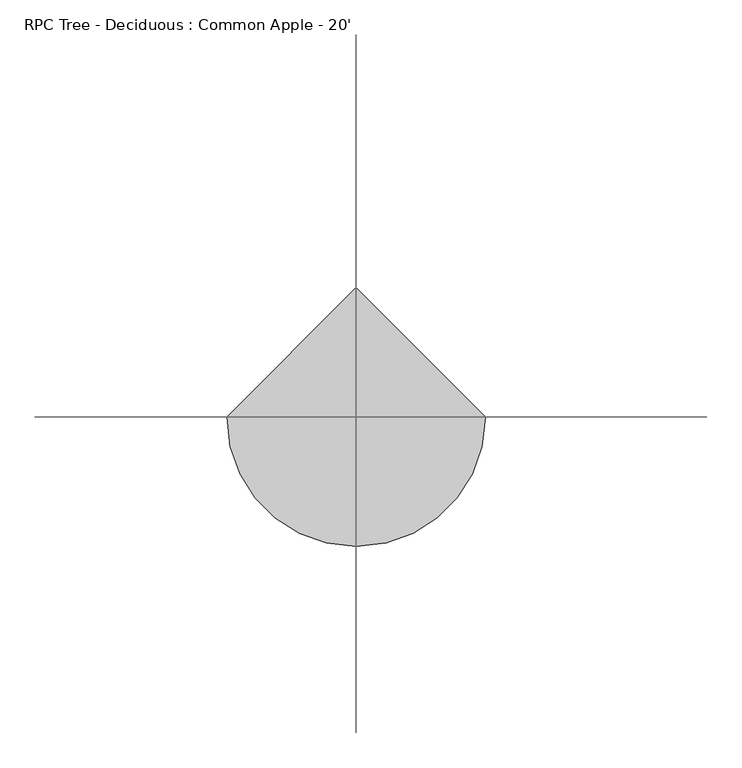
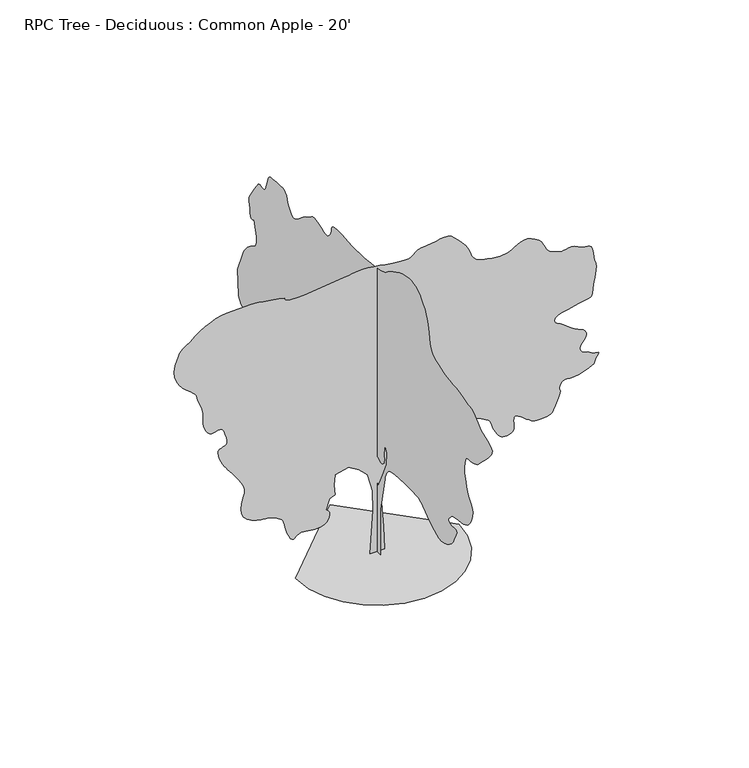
"""IFC4 building model written with IfcOpenShell, lengths in millimetres: geographic element geometry, RPC Tree - Deciduous : Common Apple - 20'."""

import ifcopenshell
import ifcopenshell.guid

model = None  # the IFC model being written
_history = None  # IfcOwnerHistory: only IFC2X3 demands one
_inside = {}  # id of a spatial element -> (the spatial element, [elements in it])
_under = {}  # id of a project, library or spatial element -> (it, [spatial elements below it])
_declared = {}  # id of a project -> (the project, [libraries it declares])
_typed = {}  # id of a type object -> (the type object, [elements of that type])
_made_of = {}  # id of a material, layer set ... -> (it, [elements and type objects made of it])


def new_model(schema):
    """Start an empty IFC model of exactly this schema.

    Asked for "IFC4X3", IfcOpenShell would pick the latest addendum, in which some entities
    have other attributes; the version numbers below select the first issue.
    IFC2X3 requires an IfcOwnerHistory on every rooted entity: one is made here for all.
    """
    global model, _history
    if schema == "IFC4X3":
        model = ifcopenshell.file(schema_version=(4, 3, 0, 0))
    else:
        model = ifcopenshell.file(schema=schema)
    _inside.clear()
    _under.clear()
    _declared.clear()
    _typed.clear()
    _made_of.clear()
    _history = None
    if model.schema == "IFC2X3":
        org = make("IfcOrganization", Name="unknown")
        user = make(
            "IfcPersonAndOrganization",
            ThePerson=make("IfcPerson", FamilyName="unknown"),
            TheOrganization=org,
        )
        app = make(
            "IfcApplication",
            ApplicationDeveloper=org,
            Version="unknown",
            ApplicationFullName="unknown",
            ApplicationIdentifier="unknown",
        )
        _history = make(
            "IfcOwnerHistory",
            OwningUser=user,
            OwningApplication=app,
            ChangeAction="ADDED",
            CreationDate=0,
        )
    return model


def make(cls, **values):
    """One entity of the class cls with the attributes given. An attribute that is None is left unset."""
    return model.create_entity(
        cls, **{name: value for name, value in values.items() if value is not None}
    )


def rooted(cls, **values):
    """An entity with a GlobalId (a new one), such as an element, a storey or a relation."""
    return make(cls, GlobalId=ifcopenshell.guid.new(), OwnerHistory=_history, **values)


def si_unit(unit_type, name, prefix=None):
    """IfcSIUnit, for example si_unit("LENGTHUNIT", "METRE", prefix="MILLI")."""
    return make("IfcSIUnit", UnitType=unit_type, Prefix=prefix, Name=name)


def assignment(units):
    """IfcUnitAssignment: the units of a project."""
    return None if units is None else make("IfcUnitAssignment", Units=units)


def point(xyz):
    """IfcCartesianPoint."""
    return None if xyz is None else make("IfcCartesianPoint", Coordinates=xyz)


def direction(xyz):
    """IfcDirection."""
    return None if xyz is None else make("IfcDirection", DirectionRatios=xyz)


def frame(location, z_axis=None, x_axis=None):
    """IfcAxis2Placement3D, a coordinate frame: its origin and axes. An axis left out is left unset."""
    return make(
        "IfcAxis2Placement3D",
        Location=point(location),
        Axis=direction(z_axis),
        RefDirection=direction(x_axis),
    )


def origin():
    """The frame at (0, 0, 0) with its axes left unset."""
    return frame((0.0, 0.0, 0.0))


def place(relative_to, where):
    """IfcLocalPlacement: puts the frame where relative to a parent placement (None: the world)."""
    return make(
        "IfcLocalPlacement", PlacementRelTo=relative_to, RelativePlacement=where
    )


def context(
    kind, dimensions, precision=None, world=None, true_north=None, identifier=None
):
    """IfcGeometricRepresentationContext, for example the 3D "Model" context."""
    return make(
        "IfcGeometricRepresentationContext",
        ContextIdentifier=identifier,
        ContextType=kind,
        CoordinateSpaceDimension=dimensions,
        Precision=precision,
        WorldCoordinateSystem=world,
        TrueNorth=true_north,
    )


def project(units=None, contexts=None):
    """IfcProject with its units and contexts."""
    return rooted(
        "IfcProject",
        Name="project",
        RepresentationContexts=contexts,
        UnitsInContext=assignment(units),
    )


def spatial(cls, under=None, at=None, **own):
    """A site, building, storey or space (cls), placed at a placement, below another one or the project."""
    s = rooted(cls, ObjectPlacement=at, **own)
    if under is not None:
        _under.setdefault(under.id(), (under, []))[1].append(s)
    return s


def point_list(points):
    """IfcCartesianPointList2D or 3D."""
    cls = (
        "IfcCartesianPointList2D" if len(points[0]) == 2 else "IfcCartesianPointList3D"
    )
    return make(cls, CoordList=points)


def triangles(points, corners, closed=None, point_numbers=None):
    """IfcTriangulatedFaceSet: each triangle names its three corners, points numbered from 1."""
    return make(
        "IfcTriangulatedFaceSet",
        Coordinates=point_list(points),
        Closed=closed,
        CoordIndex=corners,
        PnIndex=point_numbers,
    )


def shape(context_of_items, identifier, shape_type, items):
    """IfcShapeRepresentation: the items that make up one representation, for example the "Body"."""
    return make(
        "IfcShapeRepresentation",
        ContextOfItems=context_of_items,
        RepresentationIdentifier=identifier,
        RepresentationType=shape_type,
        Items=items,
    )


def source(mapping_origin, context_of_items, identifier, shape_type, items):
    """IfcRepresentationMap: a shape defined once, which mapped items show again and again."""
    return make(
        "IfcRepresentationMap",
        MappingOrigin=mapping_origin,
        MappedRepresentation=shape(context_of_items, identifier, shape_type, items),
    )


def transform(
    local_origin,
    x_axis=None,
    y_axis=None,
    z_axis=None,
    scale=None,
    scale2=None,
    scale3=None,
    uniform=True,
):
    """IfcCartesianTransformationOperator3D, or its non-uniform kind. x_axis, y_axis, z_axis: its Axis1, 2, 3."""
    if uniform:
        return make(
            "IfcCartesianTransformationOperator3D",
            Axis1=direction(x_axis),
            Axis2=direction(y_axis),
            LocalOrigin=point(local_origin),
            Scale=scale,
            Axis3=direction(z_axis),
        )
    return make(
        "IfcCartesianTransformationOperator3DnonUniform",
        Axis1=direction(x_axis),
        Axis2=direction(y_axis),
        LocalOrigin=point(local_origin),
        Scale=scale,
        Axis3=direction(z_axis),
        Scale2=scale2,
        Scale3=scale3,
    )


def mapped(mapping_source, mapping_target):
    """IfcMappedItem: shows the shape of a source again, moved by a transform."""
    return make(
        "IfcMappedItem", MappingSource=mapping_source, MappingTarget=mapping_target
    )


def made_of(thing, what):
    """Note that an element or type object is made of a material, layer set ...; save() writes the relation."""
    if what is not None:
        _made_of.setdefault(what.id(), (what, []))[1].append(thing)
    return thing


def element(
    cls,
    number,
    at=None,
    inside=None,
    cuts=None,
    type_object=None,
    material=None,
    context=None,
    identifier="Body",
    shape_type=None,
    held_by="IfcProductDefinitionShape",
    body=None,
    shapes=None,
    **own,
):
    """One element of the class cls, such as IfcWall. Its Tag is "e" and its number.

    at: its placement. inside: the storey or other place that contains it. cuts: it is an
    opening in that element (IfcRelVoidsElement). A single representation is given by context,
    identifier, shape_type and body (its items); several are given by shapes. held_by: the class
    of the entity that holds the representations. save() writes the other relations.
    """
    e = rooted(cls, Tag="e%d" % number, ObjectPlacement=at, **own)
    if body is not None:
        shapes = [shape(context, identifier, shape_type, body)]
    if shapes is not None:
        e.Representation = make(held_by, Representations=shapes)
    if inside is not None:
        _inside.setdefault(inside.id(), (inside, []))[1].append(e)
    if cuts is not None:
        rooted(
            "IfcRelVoidsElement", RelatingBuildingElement=cuts, RelatedOpeningElement=e
        )
    if type_object is not None:
        _typed.setdefault(type_object.id(), (type_object, []))[1].append(e)
    return made_of(e, material)


def aggregate(whole, parts):
    """IfcRelAggregates: a whole, such as a stair, and the parts it consists of."""
    return rooted("IfcRelAggregates", RelatingObject=whole, RelatedObjects=parts)


def save(model, path):
    """Write the relations noted so far, then the file.

    IfcRelAggregates (storeys below a building ...), IfcRelContainedInSpatialStructure (elements
    in a storey), IfcRelDefinesByType, IfcRelAssociatesMaterial and IfcRelDeclares: one each for
    every whole, place, type object, material and project.
    """
    for whole, parts in _under.values():
        aggregate(whole, parts)
    for where, things in _inside.values():
        rooted(
            "IfcRelContainedInSpatialStructure",
            RelatedElements=things,
            RelatingStructure=where,
        )
    for kind, things in _typed.values():
        rooted("IfcRelDefinesByType", RelatedObjects=things, RelatingType=kind)
    for what, things in _made_of.values():
        rooted("IfcRelAssociatesMaterial", RelatedObjects=things, RelatingMaterial=what)
    for by, libraries in _declared.values():
        rooted("IfcRelDeclares", RelatingContext=by, RelatedDefinitions=libraries)
    model.write(path)


def rpc_tree_deciduous_common_apple_20_2cf08d23(model_context):
    return source(origin(), model_context, "Body", "Tessellation", [
        triangles([(-6.61e-05, -106.7031981, 0.0075972), (-6.25e-05, 141.1357166, 0.0075898), (-4.92e-05, 101.4814601, 465.9455781), (-3.19e-05, 131.2220957, 1031.0173004), (-1.83e-05, 230.3576144, 1437.4734501), (-8.7e-06, 398.8869896, 1675.3980263), (-1.1e-06, 587.2459139, 1834.016106), (2.7e-06, 765.6887283, 1873.6680462), (3.6e-06, 963.961219, 1804.2751888), (1.5e-06, 1023.4430534, 1705.1389435), (-4.1e-06, 904.4794573, 1576.2617809), (-8.5e-06, 944.1340136, 1407.7326782), (-1.46e-05, 1172.144878, 1090.4990622), (-1.49e-05, 1568.687534, 882.3128597), (-8.7e-06, 2143.6727863, 803.006436), (7.7e-06, 2490.6473923, 1179.7191977), (2.57e-05, 2847.5453751, 1606.0026981), (3.25e-05, 3402.6882339, 1556.4345028), (3.9e-05, 3600.9610153, 1675.3980263), (4.6e-05, 3591.0549339, 1913.3226025), (4.57e-05, 3412.6196045, 1992.6315697), (5.03e-05, 3283.7399712, 2210.7288677), (5.51e-05, 3591.0549339, 2220.6425068), (6.07e-05, 4205.6845688, 2101.6814541), (6.29e-05, 4275.3567696, 2137.8384041), (6.49e-05, 4342.3114037, 2174.2544952), (6.7e-05, 4403.9061905, 2211.1911942), (6.89e-05, 4457.4241447, 2248.9101128), (7.07e-05, 4500.1976967, 2287.6680668), (7.23e-05, 4529.5348595, 2327.7263775), (7.37e-05, 4542.7427742, 2369.3469475), (8.93e-05, 4572.4863075, 2874.9268433), (9.94e-05, 4403.9570595, 3301.215358), (0.0001002, 4386.5834106, 3334.8449913), (0.000101, 4360.9041641, 3374.6975006), (0.0001018, 4328.265168, 3418.5378479), (0.0001026, 4290.0887192, 3464.105706), (0.0001033, 4247.7471176, 3509.1651649), (0.0001039, 4202.636499, 3551.4561882), (0.0001043, 4156.1291634, 3588.718158), (0.0001045, 4111.323468, 3617.9027138), (0.0001046, 4070.8611122, 3640.1530998), (0.0001046, 4035.4281006, 3659.4571541), (0.0001048, 4005.7101471, 3679.8024239), (0.0001052, 3982.4182549, 3705.2026176), (0.000106, 3966.2384285, 3739.5941231), (0.0001073, 3957.8566727, 3786.9906487), (0.0001089, 3956.7898773, 3842.7945099), (0.0001107, 3961.4378494, 3899.6395866), (0.0001126, 3970.8614021, 3957.3738533), (0.0001145, 3984.0948967, 4015.7685448), (0.0001165, 4000.1982742, 4074.6966339), (0.0001185, 4018.2070587, 4133.9802246), (0.0001206, 4037.1553207, 4193.4417114), (0.0001203, 4062.5299347, 4172.9947037), (0.0001202, 4087.2188347, 4157.4244331), (0.0001204, 4110.5107269, 4151.5570587), (0.000121, 4131.7196068, 4160.2693176), (0.0001221, 4150.160051, 4188.3870781), (0.0001239, 4165.1460548, 4240.787368), (0.0001265, 4175.9410355, 4322.3213448), (0.000129, 4186.6092796, 4402.5600517), (0.0001308, 4198.1408432, 4455.5698975), (0.000132, 4205.3543564, 4492.9588943), (0.000133, 4202.9922913, 4526.3597626), (0.0001339, 4185.923275, 4567.406385), (0.0001352, 4148.8900703, 4627.7059021), (0.000137, 4086.736306, 4718.8666168), (0.0001389, 4019.8834099, 4816.9867905), (0.0001404, 3969.4896835, 4892.043837), (0.0001414, 3931.4405525, 4946.4759796), (0.0001421, 3901.5194138, 4982.6714447), (0.0001423, 3875.5858223, 5003.1184525), (0.0001421, 3849.5002052, 5010.2046478), (0.0001416, 3819.0709579, 5006.343837), (0.0001408, 3787.3208611, 4996.7176804), (0.0001401, 3759.4062859, 4987.6240494), (0.0001396, 3734.2601463, 4983.2045517), (0.0001394, 3710.841227, 4987.6240494), (0.0001396, 3688.1338921, 5005.0485672), (0.0001402, 3665.0704742, 5039.6435486), (0.0001416, 3640.6103394, 5095.574437), (0.0001432, 3619.2235634, 5160.9030075), (0.0001447, 3603.043737, 5219.9581238), (0.000146, 3587.5496246, 5271.4183548), (0.000147, 3568.2455704, 5313.8366959), (0.0001475, 3540.6103386, 5345.8661362), (0.0001475, 3500.1482735, 5366.109668), (0.0001469, 3442.3378487, 5373.1458664), (0.0001459, 3372.4368828, 5376.2445145), (0.0001451, 3300.6055115, 5383.3312912), (0.0001442, 3229.8412262, 5391.1034912), (0.0001434, 3163.0391991, 5396.2851517), (0.0001425, 3103.1713417, 5395.5485687), (0.0001414, 3053.2095657, 5385.642778), (0.0001402, 3016.0746231, 5363.2394943), (0.0001391, 2991.8429626, 5337.2044556), (0.0001382, 2976.4758774, 5316.3510773), (0.0001375, 2966.6462448, 5297.4283951), (0.0001368, 2959.0769394, 5277.1081238), (0.0001359, 2950.4664185, 5252.1148819), (0.0001348, 2937.5122673, 5219.1198029), (0.0001331, 2916.9382324, 5174.873085), (0.0001313, 2890.1666107, 5126.1051315), (0.0001296, 2860.6265533, 5083.2042618), (0.000128, 2827.9619774, 5048.4569641), (0.0001268, 2791.8432518, 5024.124147), (0.0001258, 2751.8890045, 5012.4399765), (0.0001253, 2707.794603, 5015.6909409), (0.0001252, 2659.1789658, 5036.0873703), (0.0001254, 2610.791803, 5068.0662323), (0.0001258, 2565.8846603, 5103.6768494), (0.0001263, 2521.8332794, 5141.7006912), (0.0001267, 2476.0523529, 5180.9436447), (0.0001272, 2425.9356445, 5220.212178), (0.0001274, 2368.8821503, 5258.2360199), (0.0001275, 2302.2908661, 5293.846637), (0.0001276, 2240.2945049, 5328.4671982), (0.0001279, 2193.5584042, 5362.0459625), (0.0001282, 2154.2798424, 5391.129071), (0.0001282, 2114.6558075, 5412.2365036), (0.0001278, 2066.8783459, 5421.8882401), (0.0001267, 2003.1496777, 5416.6304214), (0.0001247, 1915.6618492, 5392.9830276), (0.0001224, 1826.1497257, 5361.2837997), (0.0001207, 1757.9710384, 5335.9853439), (0.0001194, 1705.7434124, 5319.8816757), (0.0001187, 1664.0950825, 5315.7418121), (0.0001184, 1627.6484699, 5326.358606), (0.0001187, 1591.0293388, 5354.4766571), (0.0001195, 1548.8602558, 5402.8893997), (0.0001207, 1514.8419834, 5459.7853455), (0.000122, 1498.8602554, 5510.7630478), (0.0001232, 1489.8128426, 5554.806871), (0.0001241, 1476.6047825, 5590.874437), (0.0001244, 1448.1338459, 5617.9256927), (0.0001241, 1393.3079773, 5634.9182602), (0.0001229, 1301.0220406, 5640.8109238), (0.0001214, 1201.3955635, 5639.6935501), (0.0001202, 1126.7398006, 5636.6454803), (0.0001192, 1069.2519579, 5632.2259827), (0.0001184, 1021.1290958, 5626.9425842), (0.0001175, 974.5682751, 5621.3039749), (0.0001165, 921.7642307, 5615.8426804), (0.0001154, 854.9113346, 5611.0679718), (0.0001143, 784.7082069, 5608.019902), (0.0001133, 723.0014357, 5607.2071609), (0.0001125, 663.7228592, 5608.4768509), (0.0001116, 600.8019178, 5611.6516571), (0.0001107, 528.1680156, 5616.5792633), (0.0001096, 439.7556433, 5623.0567749), (0.0001082, 329.4941322, 5630.9051331), (0.0001067, 206.9466705, 5641.7254028), (0.0001053, 88.3885184, 5656.6861176), (0.0001042, -22.1921751, 5675.1262711), (0.0001034, -120.8075788, 5696.3354416), (0.0001029, -203.4686488, 5719.6276245), (0.0001027, -266.1871316, 5744.3162338), (0.0001028, -304.9729546, 5769.6908478), (0.0001032, -347.9523442, 5804.4381454), (0.0001036, -420.583703, 5853.4089935), (0.0001039, -514.8939712, 5910.1532043), (0.000104, -622.9024584, 5968.31884), (0.0001039, -736.6335978, 6021.4301331), (0.0001035, -848.1092062, 6063.1118912), (0.0001027, -949.3562239, 6086.9371811), (0.0001016, -1039.2697763, 6095.8017563), (0.0001004, -1122.4243664, 6096.0046509), (9.9e-05, -1199.3330441, 6086.1494385), (9.73e-05, -1270.5191059, 6064.8391113), (9.53e-05, -1336.5033051, 6030.7016602), (9.29e-05, -1397.8062492, 5982.3650757), (9.01e-05, -1454.9462208, 5918.407933), (8.77e-05, -1502.3755932, 5861.1056168), (8.62e-05, -1536.9730453, 5825.4944183), (8.5e-05, -1562.8963177, 5799.256485), (8.38e-05, -1584.313615, 5770.0716385), (8.22e-05, -1605.3828232, 5725.6220261), (7.96e-05, -1630.2698215, 5653.5874695), (7.58e-05, -1663.1323505, 5541.6751144), (7.16e-05, -1693.8258259, 5415.6147858), (6.81e-05, -1715.6747829, 5307.5626602), (6.5e-05, -1738.0446384, 5214.9799393), (6.21e-05, -1770.3000824, 5135.1981812), (5.93e-05, -1821.8062408, 5065.6530075), (5.62e-05, -1901.9230076, 5003.7532974), (5.28e-05, -2020.0178341, 4946.8823502), (4.95e-05, -2152.913356, 4902.7117905), (4.69e-05, -2273.494804, 4876.3974083), (4.48e-05, -2385.2295536, 4861.5384315), (4.29e-05, -2491.5921021, 4851.7340881), (4.1e-05, -2596.0345642, 4840.5071571), (3.89e-05, -2702.0542557, 4821.482737), (3.62e-05, -2813.1030006, 4788.2594742), (3.39e-05, -2912.3155495, 4758.5159409), (3.24e-05, -2986.585144, 4746.9843773), (3.14e-05, -3044.8780975, 4742.742485), (3.04e-05, -3096.2371719, 4734.8432579), (2.89e-05, -3149.6786774, 4712.3896866), (2.66e-05, -3214.2200867, 4664.4344742), (2.28e-05, -3298.878582, 4580.0809021), (1.85e-05, -3408.6320572, 4492.8062874), (1.5e-05, -3530.0185432, 4434.3354378), (1.2e-05, -3644.3188339, 4390.95233), (9.4e-06, -3732.7616913, 4348.9659393), (7.2e-06, -3776.6273277, 4294.6608238), (5.1e-06, -3757.196537, 4214.3459587), (3e-06, -3655.7486595, 4094.3056114), (1.1e-06, -3529.027906, 3968.7786804), (-3e-07, -3439.3912262, 3876.7287758), (-1.3e-06, -3376.6531952, 3811.5525215), (-1.9e-06, -3330.5522301, 3766.670668), (-2.3e-06, -3290.852037, 3735.479258), (-2.3e-06, -3247.3671913, 3711.4002045), (-2.2e-06, -3189.8108208, 3687.854258), (-1.7e-06, -3124.3802216, 3671.1919029), (-1e-06, -3064.487075, 3666.3404549), (-2e-07, -3010.8420937, 3664.4356293), (2e-07, -2964.1568619, 3656.6378494), (2e-07, -2925.0662247, 3634.0825401), (-8e-07, -2894.3070557, 3587.9559952), (-2.8e-06, -2872.5897766, 3509.3939301), (-5.1e-06, -2860.8041588, 3423.8465355), (-7.1e-06, -2858.3659355, 3357.9081184), (-8.8e-06, -2863.7507813, 3304.4410332), (-1.04e-05, -2875.358503, 3256.3335045), (-1.21e-05, -2891.6653564, 3206.498465), (-1.41e-05, -2911.070858, 3147.8244301), (-1.67e-05, -2932.0768433, 3073.199334), (-1.95e-05, -2961.2613991, 2993.8242371), (-2.22e-05, -3001.7234642, 2923.6186386), (-2.47e-05, -3046.5291595, 2859.6612053), (-2.72e-05, -3088.7187355, 2798.9806068), (-2.95e-05, -3121.3830208, 2738.6555099), (-3.16e-05, -3137.5628471, 2675.7398735), (-3.35e-05, -3130.349334, 2607.2612045), (-3.52e-05, -3109.3942177, 2540.281572), (-3.66e-05, -3087.7280983, 2482.819091), (-3.77e-05, -3063.4964378, 2433.5098915), (-3.85e-05, -3034.7182526, 2390.964814), (-3.91e-05, -2999.5645844, 2353.7970245), (-3.94e-05, -2956.0544495, 2320.6169277), (-3.96e-05, -2902.3333099, 2290.0378349), (-3.93e-05, -2836.3948929, 2266.2507694), (-3.86e-05, -2760.9314758, 2251.4832115), (-3.77e-05, -2680.9721123, 2241.3942924), (-3.68e-05, -2601.4955681, 2231.6559334), (-3.61e-05, -2527.6041481, 2217.9272655), (-3.58e-05, -2464.279525, 2195.8749779), (-3.62e-05, -2416.56049, 2161.1632885), (-3.68e-05, -2383.2356346, 2123.2410393), (-3.73e-05, -2359.9691769, 2093.2995529), (-3.79e-05, -2347.1065899, 2069.598674), (-3.84e-05, -2344.9984337, 2050.4090023), (-3.9e-05, -2353.9875652, 2033.9929985), (-3.98e-05, -2374.4217831, 2018.6158848), (-4.07e-05, -2406.646851, 2002.5452087), (-4.16e-05, -2449.8269188, 1993.9041664), (-4.23e-05, -2498.3841293, 1996.5330757), (-4.28e-05, -2545.5646797, 2002.2862129), (-4.34e-05, -2584.5791588, 2003.0075352), (-4.41e-05, -2608.6837921, 1990.5513187), (-4.52e-05, -2611.0967262, 1956.7642822), (-4.66e-05, -2585.0869766, 1893.4953243), (-4.83e-05, -2549.9080193, 1821.1814243), (-4.96e-05, -2524.6272949, 1762.91376), (-5.07e-05, -2502.1126808, 1714.5318295), (-5.16e-05, -2475.2625755, 1671.8725147), (-5.23e-05, -2436.9668026, 1630.7726978), (-5.27e-05, -2380.1140228, 1587.0720222), (-5.3e-05, -2297.5969666, 1536.6072247), (-5.28e-05, -2203.8378639, 1496.8968578), (-5.19e-05, -2116.842738, 1484.7582092), (-5.03e-05, -2034.8743401, 1494.9892708), (-4.83e-05, -1956.2028339, 1522.3883251), (-4.6e-05, -1879.090971, 1561.7532188), (-4.35e-05, -1801.803828, 1607.8822346), (-4.09e-05, -1722.6115688, 1655.5707481), (-3.83e-05, -1647.9584221, 1703.6352562), (-3.59e-05, -1583.013113, 1752.3931812), (-3.37e-05, -1524.1383636, 1798.8980461), (-3.16e-05, -1467.6919544, 1840.2010483), (-2.97e-05, -1410.0313751, 1873.3506237), (-2.82e-05, -1347.5167316, 1895.4053822), (-2.69e-05, -1276.503479, 1903.4089634), (-2.54e-05, -1177.6846561, 1904.2776604), (-2.33e-05, -1044.3574018, 1905.4916851), (-2.11e-05, -891.7820492, 1904.9710773), (-1.89e-05, -735.2163151, 1900.6352955), (-1.7e-05, -589.9230761, 1890.4040886), (-1.58e-05, -471.1627742, 1872.1948803), (-1.55e-05, -394.1956335, 1843.9297451), (-1.6e-05, -348.7041879, 1805.3140789), (-1.68e-05, -313.0958962, 1758.377409), (-1.8e-05, -285.7248199, 1704.5039532), (-1.95e-05, -264.9450744, 1645.0805454), (-2.11e-05, -249.1058704, 1581.494165), (-2.29e-05, -236.5620685, 1515.1341167), (-2.48e-05, -225.6659676, 1447.3870892), (-3.91e-05, -116.6168281, 912.0537769), (-2.05e-05, -27.3946828, 1318.5099266), (-1.32e-05, -176.0980811, 1635.74347), (-6.6e-06, -304.975498, 1923.2362415), (2e-07, -324.8002327, 2161.1632885), (4.8e-06, -255.4073572, 2280.1241959), (-4e-07, -225.6657133, 2091.767815), (-1.7e-06, -231.7353101, 2049.4539734), (-3e-06, -235.984215, 2008.1814926), (-4.2e-06, -236.5910275, 1968.9892628), (-5.2e-06, -231.7353101, 1932.9186447), (-6e-06, -219.5961346, 1901.0111446), (-6.5e-06, -198.3530817, 1874.3056526), (-6.6e-06, -166.1844602, 1853.8433842), (-6.2e-06, -129.2182845, 1848.5829494), (-5.3e-06, -95.0268123, 1860.3152275), (-4.3e-06, -63.9562343, 1879.3348515), (-3.4e-06, -36.354542, 1895.9235191), (-2.9e-06, -12.5678035, 1900.3761543), (-3.1e-06, 7.0569383, 1882.9772163), (-4.4e-06, 22.1729471, 1834.016106), (-6.1e-06, 32.8958209, 1768.9260384), (-7.8e-06, 39.9768386, 1709.0403042), (-9.4e-06, 44.0233167, 1653.4904972), (-1.1e-05, 45.6418044, 1601.4077751), (-1.24e-05, 45.4396183, 1551.9260571), (-1.39e-05, 44.0233167, 1504.1789715), (-1.53e-05, 41.9999482, 1457.3007282), (139.590126, 0.0003305, 0.0), (-135.4471285, 0.0003387, 0.0), (-74.3278259, 0.000241, 845.4879272), (-84.5142454, 0.0002472, 1242.76455), (-186.3807747, 0.0002013, 1599.294532), (-339.1791879, 0.0002082, 1752.0933449), (-542.9102117, 0.000216, 1874.3335579), (-797.5758808, 0.0002227, 1813.2134514), (-817.9492012, 0.0002203, 1609.4824276), (-797.5758808, 0.0002168, 1415.9368286), (-899.4426281, 0.0002191, 1365.0021469), (-970.7481594, 0.0002183, 1171.4565479), (-951.3247084, 0.0002718, 1158.1240768), (-933.2373676, 0.000271, 1143.3616058), (-917.8246456, 0.0002703, 1125.7517796), (-906.4200365, 0.0002696, 1103.8645981), (-900.3621214, 0.000269, 1076.2750757), (-900.9870106, 0.0002686, 1041.555756), (-909.6280529, 0.0002682, 998.2868128), (-928.5764603, 0.0002681, 955.1042742), (-957.6798437, 0.0002684, 921.0098436), (-994.6267164, 0.0002692, 895.1144766), (-1037.0955631, 0.0002701, 876.5217161), (-1082.7698101, 0.0002713, 864.3449158), (-1129.3382612, 0.0002726, 857.6926329), (-1174.4791832, 0.0002739, 855.6733521), (-1218.6700905, 0.0002753, 858.4063974), (-1263.5747623, 0.0002767, 865.0586803), (-1308.6573303, 0.0002782, 873.3161705), (-1353.3816353, 0.0002796, 880.857498), (-1397.217041, 0.000281, 885.3710306), (-1439.6273884, 0.0002823, 884.5404854), (-1480.0769543, 0.0002833, 876.0466724), (-1514.854628, 0.0002841, 857.900905), (-1542.5051205, 0.0002846, 834.4084436), (-1565.8782578, 0.000285, 812.6990856), (-1587.8238659, 0.0002854, 799.9000122), (-1611.1970032, 0.0002862, 803.1359339), (-1638.8473503, 0.0002874, 829.5392641), (-1673.6225533, 0.000235, 886.2346407), (-1706.6171963, 0.0002371, 959.4984827), (-1729.2790398, 0.0002388, 1029.5593225), (-1744.988982, 0.0002402, 1094.4487484), (-1757.1353336, 0.0002415, 1152.2135365), (-1769.1037891, 0.0002426, 1200.8900711), (-1784.2803337, 0.0002436, 1238.5177162), (-1806.0481911, 0.0002446, 1263.1378704), (-1833.1626698, 0.0002457, 1282.7670502), (-1863.3073414, 0.0002469, 1305.4288937), (-1898.2629112, 0.0002483, 1329.1576778), (-1939.8122646, 0.0002499, 1351.9948013), (-1989.7334908, 0.0002517, 1371.9820988), (-2049.8147072, 0.0002537, 1387.1586433), (-2121.8338577, 0.000256, 1395.5635082), (-2205.4938675, 0.0002044, 1404.6210949), (-2294.67854, 0.0002073, 1424.3695988), (-2382.4381542, 0.0002104, 1456.7724174), (-2461.8232796, 0.0002135, 1503.7853909), (-2525.8821602, 0.0002163, 1567.3691551), (-2567.6627495, 0.0002188, 1649.4849277), (-2580.2355286, 0.0002207, 1752.0933449), (-2568.9835991, 0.0002218, 1851.4048702), (-2548.8159348, 0.0002224, 1927.9097935), (-2527.0379036, 0.0002227, 1989.979842), (-2510.9723145, 0.0001688, 2045.9893593), (-2507.9117455, 0.0001695, 2104.3180664), (-2525.1659248, 0.0001711, 2173.3375454), (-2570.0503944, 0.0001737, 2261.4222851), (-2629.7912247, 0.0001769, 2355.7756828), (-2686.3316689, 0.0001798, 2438.7243988), (-2738.9604332, 0.0001825, 2511.3356644), (-2786.9665146, 0.0001849, 2574.6730774), (-2829.6130394, 0.0001327, 2629.841803), (-2866.1890045, 0.0001345, 2677.8478844), (-2896.008696, 0.000136, 2719.8086952), (-2924.6092758, 0.0001376, 2767.4084061), (-2955.1652596, 0.0001394, 2827.2762634), (-2983.4100471, 0.0001412, 2893.0114952), (-3005.0764572, 0.0001428, 2958.2389091), (-3015.8461487, 0.000144, 3016.5062828), (-3011.4772293, 0.0001446, 3061.4137161), (-2987.7028084, 0.0001442, 3086.5342758), (-2951.4823448, 0.0001433, 3098.8532913), (-2915.109565, 0.0001425, 3111.5533882), (-2882.1147766, 0.0001417, 3127.4282913), (-2856.0800285, 0.0001413, 3149.3740448), (-2840.5350471, 0.0001413, 3180.2349518), (-2839.0871704, 0.0001418, 3222.8561874), (-2855.2669968, 0.0001432, 3280.0823456), (-2877.0348541, 9.05e-05, 3338.9342766), (-2892.2240433, 9.16e-05, 3385.5177704), (-2904.1875572, 9.25e-05, 3421.2048363), (-2916.3286766, 9.32e-05, 3447.4686401), (-2932.0259743, 9.4e-05, 3465.705899), (-2954.70802, 9.48e-05, 3477.3389099), (-2987.7028084, 9.59e-05, 3483.8161308), (-3026.4123642, 9.7e-05, 3481.8857254), (-3064.2583099, 9.8e-05, 3472.1066711), (-3101.5455688, 9.9e-05, 3461.6419029), (-3138.6805115, 0.0001, 3457.552327), (-3175.9930595, 0.0001013, 3467.026458), (-3213.8137161, 0.0001029, 3497.1763618), (-3252.5488518, 0.0001049, 3555.1138138), (-3281.1747208, 0.0001068, 3626.7419998), (-3293.239682, 0.0001082, 3695.3474052), (-3295.8558014, 0.0001093, 3764.1307068), (-3296.1351448, 0.0001104, 3836.3175797), (-3301.2406471, 5.74e-05, 3915.0575409), (-3318.2840836, 5.93e-05, 4003.6274254), (-3354.4028091, 6.19e-05, 4105.2020393), (-3391.2836975, 6.43e-05, 4197.0231789), (-3411.2481766, 6.59e-05, 4259.8120789), (-3422.2972115, 6.68e-05, 4301.925206), (-3432.4570564, 6.76e-05, 4331.7448975), (-3449.7545471, 6.85e-05, 4357.6276199), (-3482.1650688, 6.99e-05, 4387.9804184), (-3537.7657448, 7.22e-05, 4431.1606316), (-3609.6985634, 2.09e-05, 4488.5646858), (-3681.631382, 2.41e-05, 4556.1285851), (-3747.3157448, 2.72e-05, 4634.0305161), (-3800.5287758, 3.01e-05, 4722.4480843), (-3835.047599, 3.26e-05, 4821.5588951), (-3844.6231773, 3.45e-05, 4931.5152649), (-3822.9823471, 3.57e-05, 5052.5468307), (-3789.555899, -1.8e-05, 5157.9310959), (-3763.7749146, -1.77e-05, 5228.187854), (-3739.5941231, -1.77e-05, 5274.3902664), (-3710.9682541, -1.81e-05, 5307.5882401), (-3671.8270386, -1.88e-05, 5338.8555176), (-3616.1246246, -1.98e-05, 5379.1652664), (-3537.7657448, -2.13e-05, 5439.6429703), (-3445.4364967, -2.3e-05, 5511.6775269), (-3351.6849518, -2.48e-05, 5578.225209), (-3256.3079247, -2.67e-05, 5637.4326416), (-3159.1783882, -2.89e-05, 5687.5726044), (-3060.0675774, -3.12e-05, 5726.8155579), (-2958.8228851, -3.39e-05, 5753.4348633), (-2855.2669968, -3.68e-05, 5765.6015625), (-2376.4970924, -5.09e-05, 5775.7869873), (-2309.7356152, -5.29e-05, 5773.1197083), (-2232.8167637, -5.53e-05, 5765.6521408), (-2147.4320045, -3.8e-06, 5754.1458664), (-2055.2781818, -6.7e-06, 5739.4392059), (-1958.0469074, -9.9e-06, 5722.3449005), (-1857.4273224, -1.32e-05, 5703.6251129), (-1755.1159801, -1.65e-05, 5684.1181641), (-1751.9080364, -1.69e-05, 5664.6617935), (-1742.5530842, -1.75e-05, 5646.3739563), (-1720.9022255, -1.83e-05, 5630.3970245), (-1680.8107773, -1.97e-05, 5617.9001129), (-1616.1270802, -2.18e-05, 5610.0261749), (-1520.7042709, -2.46e-05, 5607.9437439), (-1388.3981026, -2.85e-05, 5612.8201904), (-614.2181774, -5.02e-05, 5704.4890137), (-538.3076946, -5.24e-05, 5711.4996323), (-472.1990845, 1e-07, 5721.8879517), (-409.4762778, -1.6e-06, 5732.8355392), (-343.7232419, -3.5e-06, 5741.4460602), (-268.5264692, -5.7e-06, 5744.8749207), (-177.4707081, -8.5e-06, 5740.3031067), (-64.1414019, -1.21e-05, 5724.8598633), (54.7118994, -1.59e-05, 5704.3111176), (159.4882483, -1.93e-05, 5686.4296509), (252.3260954, -2.23e-05, 5671.4183578), (335.3640864, -2.49e-05, 5659.4039749), (410.7386644, -2.73e-05, 5650.6155579), (480.5886887, -2.95e-05, 5645.205423), (547.0529457, -3.15e-05, 5643.3764648), (603.2428662, -3.3e-05, 5651.8346695), (646.0698669, -3.4e-05, 5673.6531052), (683.3697704, -3.47e-05, 5703.4983765), (722.9887184, -3.54e-05, 5736.0359253), (772.7625698, -3.64e-05, 5765.8806152), (840.5349592, -3.81e-05, 5787.6996323), (934.1441437, -4.07e-05, 5796.1828354), (1035.6832947, -4.37e-05, 5802.989978), (1124.0372766, -4.61e-05, 5818.3826431), (1202.2337391, -4.82e-05, 5834.6642075), (1273.3004768, -5.01e-05, 5844.1636276), (1340.2726971, -5.22e-05, 5839.2360214), (1406.173035, -5.46e-05, 5812.2103455), (1474.0342999, -3.2e-06, 5755.4161377), (1539.0152172, -6.2e-06, 5686.9627579), (1594.7301304, -8.7e-06, 5628.1366974), (1641.8903332, -1.09e-05, 5576.0666199), (1681.2120609, -1.28e-05, 5527.9335114), (1713.4041367, -1.44e-05, 5480.8671982), (1739.182505, -1.59e-05, 5431.9975067), (1759.2587505, -1.73e-05, 5378.5304214), (1777.3156425, -1.87e-05, 5324.8604416), (1798.9361252, -2e-05, 5277.2604401), (1827.6839344, -2.15e-05, 5235.5281036), (1867.1225155, 3.1e-05, 5199.4855362), (1920.8180752, 2.9e-05, 5169.0060013), (1992.3318787, 2.65e-05, 5143.8342819), (2085.229842, 2.34e-05, 5123.844223), (2181.6306438, 2.03e-05, 5109.4171967), (2262.7075264, 1.78e-05, 5100.6799393), (2330.5991673, 1.57e-05, 5097.123761), (2387.4419186, 1.4e-05, 5098.1905563), (2435.3767834, 1.27e-05, 5103.3722168), (2476.5374977, 1.16e-05, 5112.0844757), (2513.0678261, 1.07e-05, 5123.844223), (2552.2195061, 9.8e-06, 5144.4947067), (2599.1840813, 8.9e-06, 5175.4829315), (2653.1336952, 7.8e-06, 5209.6459625), (2713.1032906, 6.4e-06, 5239.9226028), (2778.2795448, 4.8e-06, 5259.1249191), (2847.697982, 2.7e-06, 5260.1661346), (2920.5196999, 2e-07, 5235.9094757), (2984.2992371, -2.2e-06, 5202.1528152), (3030.2478859, -4e-06, 5176.5747253), (3062.9883293, -5.3e-06, 5154.908606), (3087.1947006, -6.3e-06, 5132.9122742), (3107.4893921, -7.3e-06, 5106.2679703), (3128.4697975, -8.5e-06, 5070.73293), (3154.8094688, -1e-05, 5021.9905563), (3182.8510712, 4.27e-05, 4971.0890121), (3208.2256851, 4.13e-05, 4930.3473129), (3234.4639091, 4e-05, 4897.4289734), (3265.1724998, 3.87e-05, 4870.0475052), (3303.9076355, 3.72e-05, 4845.8667137), (3354.2252037, 3.53e-05, 4822.6004013), (3419.6808014, 3.3e-05, 4797.8859215), (3486.0258797, 3.08e-05, 4782.8237595), (3540.0769409, 2.92e-05, 4784.7032959), (3586.9909378, 2.8e-05, 4795.4729874), (3631.9489494, 2.68e-05, 4807.1571579), (3680.1326363, 2.55e-05, 4811.7036827), (3736.6730804, 2.36e-05, 4801.0863075), (3806.7519424, 2.1e-05, 4767.3299377), (3879.2181587, 1.84e-05, 4732.9890106), (3939.9240463, 1.63e-05, 4718.4346664), (3989.5811897, 1.48e-05, 4712.2626595), (4028.9003014, 1.35e-05, 4703.0678719), (4058.6185455, 1.22e-05, 4679.4204781), (4079.3957657, 6.51e-05, 4629.9412308), (4091.9941246, 6.34e-05, 4543.2253029), (4103.8306114, 6.18e-05, 4454.6301292), (4119.4261711, 6.04e-05, 4397.0481789), (4135.0217308, 5.94e-05, 4355.3161331), (4146.8835068, 5.84e-05, 4314.2950905), (4151.2268463, 5.74e-05, 4258.8467308), (4144.3688347, 5.64e-05, 4173.8330246), (4122.550399, 5.51e-05, 4044.0642014), (4100.096537, 0.000108, 3908.7329269), (4088.8698967, 0.0001069, 3812.0603394), (4081.3767494, 0.0001061, 3746.5791618), (4070.1501091, 0.0001058, 3704.7962471), (4047.6965378, 0.0001061, 3679.2184479), (4006.548468, 0.0001071, 3662.4034859), (3939.1874634, 0.0001089, 3646.8079262), (3844.4708611, 0.0001114, 3628.5706673), (3734.0822502, 0.0001144, 3608.1998177), (3619.7822502, 0.0001175, 3584.781189), (3513.3053192, 0.0001202, 3557.4761696), (3426.4373657, 0.0001224, 3525.3449913), (3370.9384277, 0.0001234, 3487.4990456), (3358.5429634, 0.0001231, 3443.0744316), (3371.5224037, 0.0001222, 3405.6092766), (3386.2799332, 0.0001214, 3384.1972115), (3405.8633308, 0.0001207, 3371.1669022), (3433.2700882, 0.0001197, 3358.8478867), (3471.5476936, 0.0001182, 3339.5694122), (3523.7447983, 0.0001162, 3305.6857246), (3592.8327324, 0.0001133, 3249.5260712), (3669.2870773, 0.0001101, 3189.9884262), (3740.381575, 0.0001074, 3147.3671906), (3804.5419029, 0.000105, 3116.150782), (3860.1425789, 0.0001572, 3090.8014572), (3905.55783, 0.0001555, 3065.8332138), (3939.2383324, 0.000154, 3035.6833099), (3959.558313, 0.0001528, 2994.8654526), (3960.2948959, 0.0001521, 2946.884951), (3941.8038734, 0.0001519, 2899.2852402), (3912.2635254, 0.0001521, 2852.3968231), (3879.8530037, 0.0001524, 2806.5752014), (3852.8020386, 0.0001525, 2762.1758766), (3839.2892006, 0.0001523, 2719.554641), (3847.5189308, 0.0001514, 2679.0672867), (3870.582058, 0.0001503, 2647.1645828), (3896.1598572, 0.0001492, 2627.2256836), (3924.2270393, 0.0001482, 2614.9319572), (3954.7830231, 0.0001472, 2606.0168037), (3987.8286804, 0.000146, 2596.2121696), (4023.3887192, 0.0001447, 2581.2517456), (4061.4378502, 0.0001432, 2556.842189), (4100.7569618, 0.0001417, 2534.5891869), (4137.7648773, 0.0001405, 2524.8203064), (4168.8798386, 0.0001395, 2521.2847664), (4190.5462486, 0.0001388, 2517.7515518), (4199.2329277, 0.0001384, 2507.9803459), (4191.3334099, 0.0001926, 2485.7375175), (4163.2918076, 0.0001928, 2444.7824593), (4135.3263634, 0.0001929, 2399.7888393), (4122.8550316, 0.0001928, 2366.7332989), (4115.1842789, 0.0001927, 2341.3408081), (4101.6461517, 0.0001927, 2319.3343025), (4071.521537, 0.0001933, 2296.4387524), (4014.1430626, 0.0001946, 2268.3717155), (3918.8166138, 0.0001969, 2230.8633945), (3811.1205711, 0.0001996, 2200.6297749), (3722.1443161, 0.0002021, 2191.0666958), (3649.3987564, 0.0002043, 2192.9081532), (3590.3436401, 0.0002062, 2196.8884335), (3542.540744, 0.0002075, 2193.7413872), (3503.4501068, 0.0002084, 2174.1985394), (3470.6079254, 0.0002087, 2128.9966473), (3451.2532928, 0.0002086, 2081.7474964), (3449.1702805, 0.0002083, 2055.3443115), (3456.7142967, 0.0002078, 2039.4564732), (3466.2137169, 0.0002073, 2023.7466763), (3470.0236588, 0.0002068, 1997.8792145), (3460.4480804, 0.0002064, 1951.5191082), (3429.8662262, 0.0002061, 1874.3335579), (3393.2393921, 0.0002059, 1787.376511), (3366.4171921, 0.0002057, 1717.5239433), (3342.9982727, 0.0002056, 1663.1755165), (3316.5315742, 0.0002058, 1622.7259506), (3280.6157433, 0.0002064, 1594.5725819), (3228.850589, 0.0002077, 1577.1101303), (3154.8094688, 0.0002098, 1568.7357868), (3080.6413216, 0.0002119, 1565.2609989), (3027.8349518, 0.0002135, 1564.6361824), (2989.0998161, 0.0002147, 1568.469088), (2957.146534, 0.0002158, 1578.3572926), (2924.6598541, 0.000217, 1595.9086922), (2884.3248161, 0.0002186, 1622.7259506), (2828.8511673, 0.0002209, 1660.4146385), (2768.830703, 0.0002233, 1702.4363468), (2719.1482704, 0.0002253, 1739.6499184), (2678.9146797, 0.000227, 1769.7336926), (2647.2154518, 0.0002282, 1790.3763279), (2623.1869766, 0.0002291, 1799.2561638), (2605.9403549, 0.0002295, 1794.0567719), (2594.5613983, 0.0002295, 1772.4668106), (2588.1350464, 0.0002293, 1744.7273701), (2585.6459541, 0.000229, 1721.445797), (2586.0014557, 0.0002287, 1700.833683), (2588.1350464, 0.0002283, 1681.1130844), (2591.00522, 0.0002279, 1660.5034412), (2593.494603, 0.0002275, 1637.219252), (2594.5613983, 0.0002271, 1609.4824276), (2593.1135216, 0.0002267, 1579.0989624), (2587.906572, 0.0002264, 1549.7873795), (2577.7211472, 0.0002263, 1522.6143288), (2561.2872665, 0.0002264, 1498.6468964), (2537.3884346, 0.0002268, 1478.9568192), (2504.7494385, 0.0002276, 1464.6108925), (2462.1331444, 0.0002288, 1456.6836147), (2418.7144283, 0.00023, 1454.9893867), (2382.9562912, 0.0002312, 1459.35569), (2352.5447754, 0.0002322, 1470.8491745), (2325.1635979, 0.0002333, 1490.5392517), (2298.4935688, 0.0002346, 1519.4951878), (2270.2207306, 0.000236, 1558.7865395), (2238.0288002, 0.0002377, 1609.4824276), (2208.2396301, 0.0002394, 1664.8392231), (2186.8274197, 0.0001866, 1716.8127949), (2170.9397266, 0.0001878, 1764.5088661), (2157.7241089, 0.0001888, 1807.0362122), (2144.3307404, 0.0001897, 1843.5054977), (2127.9070335, 0.0001907, 1873.0254982), (2105.6033077, 0.0001917, 1894.7068783), (2074.6583942, 0.0001929, 1913.6528149), (2035.1589157, 0.0001944, 1935.2732975), (1988.5319653, 0.0001961, 1959.1214058), (1936.2028919, 0.0001981, 1984.7525448), (1879.5964634, 0.0002001, 2011.717178), (1820.1400635, 0.0002023, 2039.5759426), (1759.2587505, 0.0002046, 2067.8791569), (1412.9141933, 0.0002149, 2067.8791569), (1219.3685944, 0.0002173, 1843.7721966), (1214.8270838, 0.000217, 1813.2134514), (1209.2136909, 0.0002167, 1782.6522354), (1201.4616205, 0.0002165, 1752.0933449), (1190.5040045, 0.0002164, 1721.5345997), (1175.2665625, 0.0002164, 1690.9733837), (1154.6874407, 0.0002165, 1660.4146385), (1127.6898153, 0.0002169, 1629.855748), (1103.6638836, 0.0002172, 1604.0163368), (1088.903956, 0.0002174, 1586.5538853), (1077.7076191, 0.0002175, 1575.8629681), (1064.3726046, 0.0002179, 1570.3384506), (1043.1966442, 0.0002185, 1568.3775238), (1008.4798679, 0.0002195, 1568.3775238), (954.5175367, 0.0002211, 1568.7357868), (886.9839409, 0.0002232, 1571.6161343), (817.1339167, 0.0002254, 1579.3072346), (747.6394667, 0.0002276, 1590.3841747), (681.1726662, 0.0002298, 1603.4220417), (620.41075, 0.0002318, 1616.9957771), (568.0206702, 0.0002335, 1629.6755264), (526.6821324, 0.0002349, 1640.0411728), (491.1627162, 0.0002361, 1650.5543392), (454.5739975, 0.0002374, 1664.275304), (417.0937271, 0.0002388, 1680.6684895), (378.9022719, 0.0002402, 1699.2003525), (340.1748393, 0.0001874, 1719.3350246), (301.0918324, 0.0001889, 1740.5414337), (261.828495, 0.0001904, 1762.2813858), (78.4708189, 0.0002443, 1375.1901878), (68.2843994, 0.0002402, 1079.7776962), (119.217278, 0.0002837, 458.3966929), (-1547.0796959, 1.1e-06, 0.0099807), (-1506.1805935, -354.4877738, 0.0099913), (-1389.6986046, -680.02964, 0.010001), (-1206.9607035, -967.2962626, 0.0100095), (-967.2962626, -1206.9607035, 0.0100167), (-680.02964, -1389.6986046, 0.0100221), (-354.4877738, -1506.1805935, 0.0100256), (6.76e-05, -1547.0796959, 0.0100268), (354.4877738, -1506.1805935, 0.0100256), (680.02964, -1389.6986046, 0.0100221), (967.2962626, -1206.9607035, 0.0100167), (1206.9607035, -967.2962626, 0.0100095), (1389.6986046, -680.02964, 0.010001), (1506.1805935, -354.4877738, 0.0099913), (1547.0796959, 0.0001258, 0.0099807), (-0.0002029, 1547.0796959, 0.0099346)], [[300, 1, 301], [299, 300, 301], [299, 301, 302], [298, 299, 302], [297, 298, 302], [296, 297, 302], [296, 302, 303], [295, 296, 303], [294, 295, 303], [293, 294, 303], [292, 293, 303], [1, 2, 3], [301, 1, 3], [301, 3, 4], [301, 4, 5], [327, 301, 5], [326, 327, 5], [326, 5, 6], [325, 326, 6], [324, 325, 6], [323, 324, 6], [322, 323, 6], [321, 322, 6], [320, 321, 6], [19, 20, 21], [18, 19, 21], [17, 18, 21], [17, 21, 22], [320, 6, 7], [319, 320, 7], [291, 292, 303], [291, 303, 304], [290, 291, 304], [261, 262, 263], [260, 261, 263], [260, 263, 264], [259, 260, 264], [259, 264, 265], [258, 259, 265], [10, 11, 12], [14, 15, 16], [258, 265, 266], [257, 258, 266], [205, 206, 207], [204, 205, 207], [204, 207, 208], [203, 204, 208], [203, 208, 209], [202, 203, 209], [202, 209, 210], [257, 266, 267], [10, 12, 13], [257, 267, 268], [257, 268, 269], [256, 257, 269], [256, 269, 270], [256, 270, 271], [255, 256, 271], [255, 271, 272], [255, 272, 273], [255, 273, 274], [255, 274, 275], [255, 275, 276], [255, 276, 277], [254, 255, 277], [254, 277, 278], [254, 278, 279], [254, 279, 280], [253, 254, 280], [253, 280, 281], [253, 281, 282], [289, 290, 304], [10, 13, 14], [10, 14, 16], [10, 16, 17], [10, 17, 22], [9, 10, 22], [201, 202, 210], [201, 210, 211], [201, 211, 212], [201, 212, 213], [201, 213, 214], [201, 214, 215], [201, 215, 216], [201, 216, 217], [201, 217, 218], [201, 218, 219], [200, 201, 219], [199, 200, 219], [198, 199, 219], [197, 198, 219], [196, 197, 219], [195, 196, 219], [194, 195, 219], [194, 219, 220], [193, 194, 220], [192, 193, 220], [191, 192, 220], [190, 191, 220], [189, 190, 220], [189, 220, 221], [188, 189, 221], [252, 253, 282], [252, 282, 283], [188, 221, 222], [187, 188, 222], [251, 252, 283], [187, 222, 223], [23, 24, 25], [318, 319, 7], [56, 57, 58], [56, 58, 59], [55, 56, 59], [55, 59, 60], [54, 55, 60], [54, 60, 61], [54, 61, 62], [23, 25, 26], [186, 187, 223], [23, 26, 27], [23, 27, 28], [23, 28, 29], [23, 29, 30], [23, 30, 31], [23, 31, 32], [23, 32, 33], [23, 33, 34], [23, 34, 35], [23, 35, 36], [23, 36, 37], [23, 37, 38], [23, 38, 39], [23, 39, 40], [23, 40, 41], [23, 41, 42], [23, 42, 43], [23, 43, 44], [22, 23, 44], [22, 44, 45], [9, 22, 45], [9, 45, 46], [9, 46, 47], [9, 47, 48], [8, 9, 48], [8, 48, 49], [8, 49, 50], [8, 50, 51], [8, 51, 52], [8, 52, 53], [8, 53, 54], [250, 251, 283], [250, 283, 284], [288, 289, 304], [288, 304, 305], [186, 223, 224], [287, 288, 305], [313, 314, 315], [312, 313, 315], [311, 312, 315], [310, 311, 315], [310, 315, 316], [309, 310, 316], [308, 309, 316], [308, 316, 317], [307, 308, 317], [306, 307, 317], [306, 317, 318], [305, 306, 318], [305, 318, 7], [305, 7, 8], [305, 8, 54], [305, 54, 62], [305, 62, 63], [305, 63, 64], [305, 64, 65], [305, 65, 66], [305, 66, 67], [305, 67, 68], [305, 68, 69], [305, 69, 70], [305, 70, 71], [305, 71, 72], [305, 72, 73], [305, 73, 74], [305, 74, 75], [305, 75, 76], [305, 76, 77], [305, 77, 78], [305, 78, 79], [305, 79, 80], [305, 80, 81], [305, 81, 82], [305, 82, 83], [305, 83, 84], [305, 84, 85], [305, 85, 86], [305, 86, 87], [305, 87, 88], [305, 88, 89], [305, 89, 90], [305, 90, 91], [305, 91, 92], [134, 135, 136], [134, 136, 137], [133, 134, 137], [133, 137, 138], [132, 133, 138], [132, 138, 139], [132, 139, 140], [131, 132, 140], [131, 140, 141], [131, 141, 142], [131, 142, 143], [130, 131, 143], [130, 143, 144], [130, 144, 145], [286, 287, 305], [186, 224, 225], [185, 186, 225], [249, 250, 284], [130, 145, 146], [285, 286, 305], [249, 284, 285], [249, 285, 305], [248, 249, 305], [234, 235, 236], [233, 234, 236], [233, 236, 237], [232, 233, 237], [232, 237, 238], [232, 238, 239], [232, 239, 240], [232, 240, 241], [232, 241, 242], [232, 242, 243], [232, 243, 244], [232, 244, 245], [231, 232, 245], [231, 245, 246], [231, 246, 247], [230, 231, 247], [230, 247, 248], [230, 248, 305], [229, 230, 305], [228, 229, 305], [227, 228, 305], [226, 227, 305], [225, 226, 305], [185, 225, 305], [184, 185, 305], [183, 184, 305], [182, 183, 305], [181, 182, 305], [180, 181, 305], [179, 180, 305], [178, 179, 305], [177, 178, 305], [176, 177, 305], [175, 176, 305], [174, 175, 305], [173, 174, 305], [172, 173, 305], [171, 172, 305], [170, 171, 305], [169, 170, 305], [168, 169, 305], [167, 168, 305], [166, 167, 305], [165, 166, 305], [164, 165, 305], [163, 164, 305], [162, 163, 305], [161, 162, 305], [160, 161, 305], [159, 160, 305], [158, 159, 305], [157, 158, 305], [156, 157, 305], [155, 156, 305], [154, 155, 305], [153, 154, 305], [152, 153, 305], [151, 152, 305], [150, 151, 305], [149, 150, 305], [148, 149, 305], [147, 148, 305], [146, 147, 305], [130, 146, 305], [129, 130, 305], [128, 129, 305], [127, 128, 305], [126, 127, 305], [125, 126, 305], [124, 125, 305], [123, 124, 305], [122, 123, 305], [121, 122, 305], [120, 121, 305], [119, 120, 305], [118, 119, 305], [117, 118, 305], [116, 117, 305], [115, 116, 305], [114, 115, 305], [113, 114, 305], [112, 113, 305], [111, 112, 305], [110, 111, 305], [109, 110, 305], [108, 109, 305], [107, 108, 305], [94, 95, 96], [94, 96, 97], [93, 94, 97], [93, 97, 98], [93, 98, 99], [93, 99, 100], [93, 100, 101], [92, 93, 101], [92, 101, 102], [92, 102, 103], [92, 103, 104], [92, 104, 105], [106, 107, 305], [106, 305, 92], [106, 92, 105], [328, 329, 330], [731, 328, 330], [730, 731, 330], [730, 330, 331], [729, 730, 331], [729, 331, 332], [728, 729, 332], [472, 473, 474], [336, 337, 338], [728, 332, 333], [618, 619, 620], [617, 618, 620], [617, 620, 621], [616, 617, 621], [615, 616, 621], [615, 621, 622], [614, 615, 622], [614, 622, 623], [472, 474, 475], [613, 614, 623], [612, 613, 623], [612, 623, 624], [612, 624, 625], [612, 625, 626], [612, 626, 627], [612, 627, 628], [611, 612, 628], [610, 611, 628], [610, 628, 629], [609, 610, 629], [609, 629, 630], [608, 609, 630], [608, 630, 631], [608, 631, 632], [607, 608, 632], [607, 632, 633], [606, 607, 633], [363, 364, 365], [363, 365, 366], [362, 363, 366], [362, 366, 367], [361, 362, 367], [361, 367, 368], [360, 361, 368], [360, 368, 369], [360, 369, 370], [359, 360, 370], [359, 370, 371], [358, 359, 371], [358, 371, 372], [407, 408, 409], [407, 409, 410], [406, 407, 410], [406, 410, 411], [405, 406, 411], [405, 411, 412], [404, 405, 412], [403, 404, 412], [403, 412, 413], [402, 403, 413], [401, 402, 413], [400, 401, 413], [399, 400, 413], [357, 358, 372], [606, 633, 634], [399, 413, 414], [398, 399, 414], [728, 333, 334], [357, 372, 373], [356, 357, 373], [562, 563, 564], [561, 562, 564], [561, 564, 565], [560, 561, 565], [559, 560, 565], [559, 565, 566], [397, 398, 414], [355, 356, 373], [354, 355, 373], [353, 354, 373], [352, 353, 373], [351, 352, 373], [350, 351, 373], [349, 350, 373], [348, 349, 373], [347, 348, 373], [346, 347, 373], [345, 346, 373], [344, 345, 373], [343, 344, 373], [342, 343, 373], [341, 342, 373], [340, 341, 373], [339, 340, 373], [338, 339, 373], [336, 338, 373], [336, 373, 374], [335, 336, 374], [335, 374, 375], [335, 375, 376], [335, 376, 377], [335, 377, 378], [335, 378, 379], [335, 379, 380], [576, 577, 578], [575, 576, 578], [575, 578, 579], [574, 575, 579], [574, 579, 580], [573, 574, 580], [573, 580, 581], [572, 573, 581], [572, 581, 582], [571, 572, 582], [570, 571, 582], [569, 570, 582], [568, 569, 582], [567, 568, 582], [566, 567, 582], [559, 566, 582], [558, 559, 582], [557, 558, 582], [556, 557, 582], [555, 556, 582], [554, 555, 582], [553, 554, 582], [552, 553, 582], [552, 582, 583], [551, 552, 583], [551, 583, 584], [550, 551, 584], [549, 550, 584], [549, 584, 585], [548, 549, 585], [547, 548, 585], [546, 547, 585], [599, 600, 601], [598, 599, 601], [598, 601, 602], [597, 598, 602], [597, 602, 603], [596, 597, 603], [596, 603, 604], [595, 596, 604], [595, 604, 605], [594, 595, 605], [594, 605, 606], [594, 606, 634], [593, 594, 634], [592, 593, 634], [591, 592, 634], [590, 591, 634], [589, 590, 634], [588, 589, 634], [588, 634, 635], [587, 588, 635], [587, 635, 636], [545, 546, 585], [335, 380, 381], [427, 428, 429], [426, 427, 429], [426, 429, 430], [425, 426, 430], [425, 430, 431], [424, 425, 431], [424, 431, 432], [424, 432, 433], [423, 424, 433], [423, 433, 434], [422, 423, 434], [422, 434, 435], [422, 435, 436], [421, 422, 436], [335, 381, 382], [335, 382, 383], [335, 383, 384], [335, 384, 385], [335, 385, 386], [335, 386, 387], [335, 387, 388], [335, 388, 389], [335, 389, 390], [335, 390, 391], [335, 391, 392], [335, 392, 393], [335, 393, 394], [335, 394, 395], [335, 395, 396], [335, 396, 397], [335, 397, 414], [335, 414, 415], [334, 335, 415], [334, 415, 416], [334, 416, 417], [334, 417, 418], [334, 418, 419], [334, 419, 420], [728, 334, 420], [638, 639, 640], [638, 640, 641], [638, 641, 642], [637, 638, 642], [545, 585, 586], [544, 545, 586], [728, 420, 421], [728, 421, 436], [728, 436, 437], [728, 437, 438], [728, 438, 439], [728, 439, 440], [728, 440, 441], [728, 441, 442], [709, 710, 711], [709, 711, 712], [708, 709, 712], [708, 712, 713], [707, 708, 713], [707, 713, 714], [706, 707, 714], [705, 706, 714], [704, 705, 714], [703, 704, 714], [702, 703, 714], [702, 714, 715], [701, 702, 715], [700, 701, 715], [700, 715, 716], [700, 716, 717], [700, 717, 718], [700, 718, 719], [700, 719, 720], [700, 720, 721], [700, 721, 722], [700, 722, 723], [700, 723, 724], [699, 700, 724], [699, 724, 725], [699, 725, 726], [699, 726, 727], [699, 727, 728], [699, 728, 442], [698, 699, 442], [543, 544, 586], [542, 543, 586], [541, 542, 586], [540, 541, 586], [539, 540, 586], [538, 539, 586], [537, 538, 586], [536, 537, 586], [535, 536, 586], [534, 535, 586], [533, 534, 586], [532, 533, 586], [531, 532, 586], [530, 531, 586], [529, 530, 586], [528, 529, 586], [527, 528, 586], [526, 527, 586], [525, 526, 586], [524, 525, 586], [523, 524, 586], [522, 523, 586], [521, 522, 586], [521, 586, 587], [521, 587, 636], [520, 521, 636], [520, 636, 637], [520, 637, 642], [520, 642, 643], [520, 643, 644], [520, 644, 645], [520, 645, 646], [520, 646, 647], [520, 647, 648], [520, 648, 649], [520, 649, 650], [520, 650, 651], [520, 651, 652], [520, 652, 653], [520, 653, 654], [520, 654, 655], [520, 655, 656], [520, 656, 657], [520, 657, 658], [520, 658, 659], [520, 659, 660], [520, 660, 661], [520, 661, 662], [520, 662, 663], [519, 520, 663], [519, 663, 664], [518, 519, 664], [698, 442, 443], [518, 664, 665], [506, 507, 508], [506, 508, 509], [505, 506, 509], [505, 509, 510], [504, 505, 510], [504, 510, 511], [503, 504, 511], [503, 511, 512], [503, 512, 513], [503, 513, 514], [503, 514, 515], [503, 515, 516], [503, 516, 517], [502, 503, 517], [502, 517, 518], [502, 518, 665], [501, 502, 665], [500, 501, 665], [499, 500, 665], [498, 499, 665], [497, 498, 665], [496, 497, 665], [495, 496, 665], [494, 495, 665], [493, 494, 665], [492, 493, 665], [491, 492, 665], [490, 491, 665], [489, 490, 665], [488, 489, 665], [487, 488, 665], [486, 487, 665], [485, 486, 665], [484, 485, 665], [483, 484, 665], [482, 483, 665], [481, 482, 665], [480, 481, 665], [479, 480, 665], [479, 665, 666], [478, 479, 666], [478, 666, 667], [478, 667, 668], [478, 668, 669], [478, 669, 670], [478, 670, 671], [478, 671, 672], [478, 672, 673], [478, 673, 674], [478, 674, 675], [477, 478, 675], [476, 477, 675], [471, 472, 475], [471, 475, 476], [449, 450, 451], [448, 449, 451], [447, 448, 451], [446, 447, 451], [446, 451, 452], [445, 446, 452], [444, 445, 452], [444, 452, 453], [444, 453, 454], [444, 454, 455], [444, 455, 456], [444, 456, 457], [444, 457, 458], [443, 444, 458], [698, 443, 458], [698, 458, 459], [698, 459, 460], [698, 460, 461], [698, 461, 462], [698, 462, 463], [698, 463, 464], [698, 464, 465], [698, 465, 466], [698, 466, 467], [698, 467, 468], [698, 468, 469], [698, 469, 470], [698, 470, 471], [698, 471, 476], [697, 698, 476], [696, 697, 476], [695, 696, 476], [694, 695, 476], [693, 694, 476], [692, 693, 476], [679, 680, 681], [678, 679, 681], [678, 681, 682], [677, 678, 682], [677, 682, 683], [676, 677, 683], [675, 676, 683], [675, 683, 684], [675, 684, 685], [675, 685, 686], [675, 686, 687], [675, 687, 688], [675, 688, 689], [675, 689, 690], [476, 675, 690], [476, 690, 691], [692, 476, 691], [746, 747, 732], [745, 746, 732], [745, 732, 733], [744, 745, 733], [744, 733, 734], [744, 734, 735], [743, 744, 735], [742, 743, 735], [742, 735, 736], [742, 736, 737], [742, 737, 738], [742, 738, 739], [742, 739, 740], [742, 740, 741]], closed=False),
    ])


if __name__ == "__main__":
    model = new_model("IFC4")
    model_context = context("Model", 3, world=origin())
    ifc_project = project(units=[si_unit("LENGTHUNIT", "METRE", prefix="MILLI")], contexts=[model_context])
    site = spatial("IfcSite", under=ifc_project)
    building = spatial("IfcBuilding", under=site)
    placement = place(None, origin())
    rpc_tree_deciduous_common_apple_20_shape = rpc_tree_deciduous_common_apple_20_2cf08d23(model_context)
    element("IfcGeographicElement", 1, ObjectType="RPC Tree - Deciduous : Common Apple - 20'", at=placement, inside=building, context=model_context, shape_type="MappedRepresentation", body=[
        mapped(rpc_tree_deciduous_common_apple_20_shape, transform((0.0, 0.0, 0.0), x_axis=(1.0, 0.0, 0.0), y_axis=(0.0, 1.0, 0.0), z_axis=(0.0, 0.0, 1.0))),
    ])
    save(model, "model.ifc")
